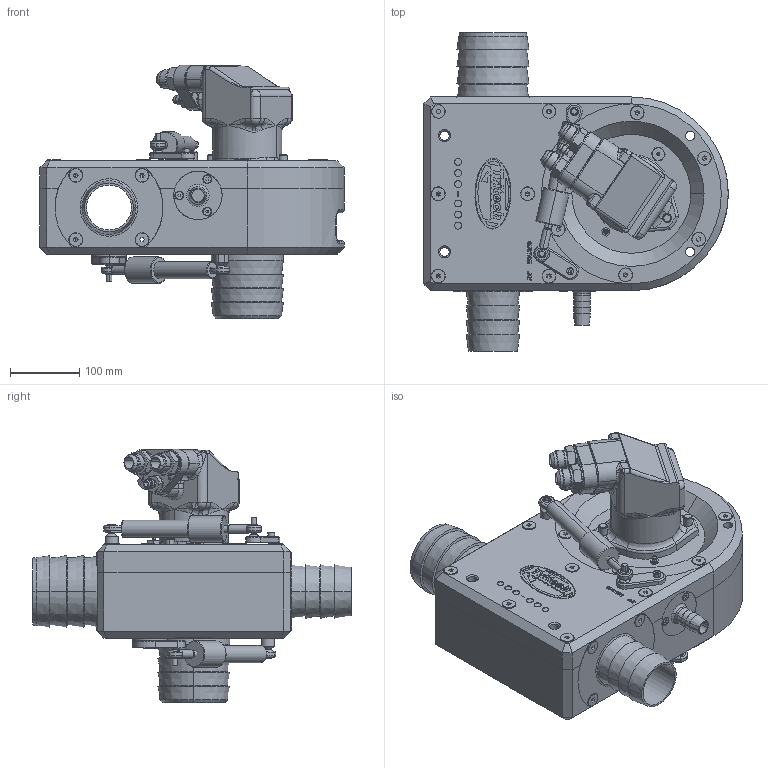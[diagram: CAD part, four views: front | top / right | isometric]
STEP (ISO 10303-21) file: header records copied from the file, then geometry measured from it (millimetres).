
FILE_DESCRIPTION (( 'STEP AP214' ), '1' );
FILE_NAME ('SUPER ZIP JET solid 4.STEP', '2005-03-17T09:18:48', ( 'Jonathan Marsh' ), ( 'Envision Design Limited' ), 'SwSTEP 2.0', 'SolidWorks 2004231', '' );
FILE_SCHEMA (( 'AUTOMOTIVE_DESIGN' ));
Length unit declared in the file: millimetre
Products named in the file (1): SUPER ZIP JET solid 4
Bounding box: 440 x 460.56 x 366.97 mm (x, y, z)
Surface area: 794947.1 mm2 (no closed solid volume)
Topology: 0 solids, 93 shells, 1305 faces, 4010 edges, 2645 vertices
Faces by surface type: plane 542, cylinder 308, cone 247, bspline 123, torus 75, sphere 10
Entity records: 128876 total; most frequent: CARTESIAN_POINT 80237, DIRECTION 7113, ORIENTED_EDGE 6435, EDGE_CURVE 3933, VERTEX_POINT 2641, AXIS2_PLACEMENT_3D 2532, VECTOR 2049, LINE 2049
